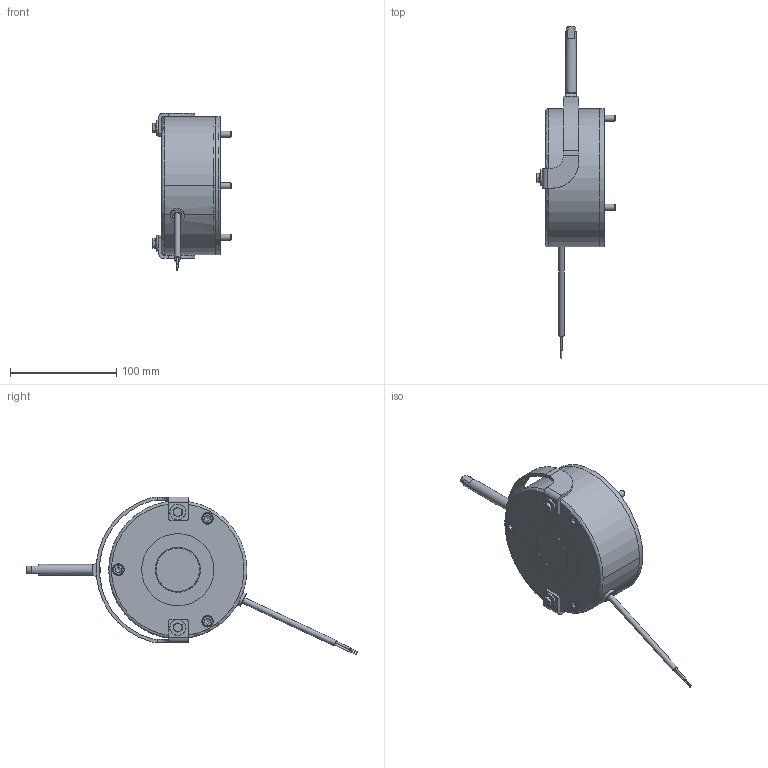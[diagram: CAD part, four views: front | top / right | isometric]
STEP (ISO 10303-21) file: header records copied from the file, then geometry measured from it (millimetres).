
FILE_DESCRIPTION(/* description */ (''),/* implementation_level */ '2;1');
FILE_NAME(/* name */ 'C:\SapWorkDir\Inventor\IP1\ConvertTempPath\5028631_IPT_000.ipt.stp',/* time_stamp */ '2020-09-11T13:30:45+02:00',/* author */ ('STRATE'),/* organization */ (''),/* preprocessor_version */ 'ST-DEVELOPER v17',/* originating_system */ 'Autodesk Inventor 2018',/* authorisation */ '');
FILE_SCHEMA (('AUTOMOTIVE_DESIGN { 1 0 10303 214 3 1 1 }'));
Length unit declared in the file: millimetre
Products named in the file (1): 5028631
Bounding box: 74.5 x 312.79 x 148.81 mm (x, y, z)
Volume: 421423.1 mm3; surface area: 158133.4 mm2
Topology: 5 solids, 5 shells, 624 faces, 1688 edges, 1142 vertices
Faces by surface type: cylinder 352, plane 154, cone 83, torus 30, bspline 5
Full cylindrical faces by diameter (mm): 1 x2, 1.85 x2, 3.242 x2, 3.6 x15, 5 x2, 5.3 x3, 5.5 x1, 5.9 x2, 6 x8, 6.2 x3, 6.5 x5, 6.6 x4, 6.7 x1, 6.9 x2, 7.4 x15, 8.5 x15, 9.2 x3, 9.9 x3, 10 x4, 11 x3, 13.2 x1, 15 x2, 34 x1, 41.9 x1, 42 x2, 44 x2, 65.7 x2, 68 x1, 69 x1, 95 x1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
Entity records: 21790 total; most frequent: CARTESIAN_POINT 5075, DIRECTION 3430, ORIENTED_EDGE 3342, EDGE_CURVE 1671, AXIS2_PLACEMENT_3D 1423, VERTEX_POINT 1143, CIRCLE 803, EDGE_LOOP 736
